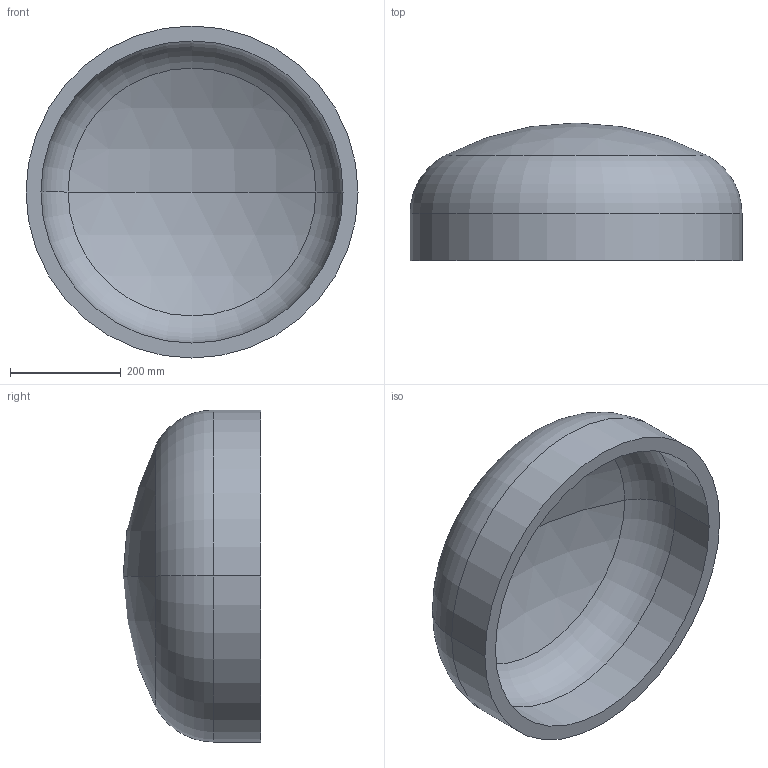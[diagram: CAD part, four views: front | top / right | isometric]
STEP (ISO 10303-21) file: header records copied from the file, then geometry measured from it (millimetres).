
FILE_DESCRIPTION (( 'STEP AP203' ), '1' );
FILE_NAME ('DIN 28013 Korbbogenform_-_Boden DIN 28013 - 600 x 85 - I - s=27.step', '2016-07-01T07:59:01', ( '' ), ( '' ), 'SwSTEP 2.0', 'SolidWorks 2013', '' );
FILE_SCHEMA (( 'CONFIG_CONTROL_DESIGN' ));
Length unit declared in the file: millimetre
Products named in the file (1): DIN 28013 Korbbogenform_-_Boden DIN 28013 - 600 x 85 - I - s=27
Bounding box: 600 x 248.8 x 600 mm (x, y, z)
Volume: 14099134.1 mm3; surface area: 1094510.5 mm2
Topology: 1 solids, 1 shells, 13 faces, 24 edges, 14 vertices
Faces by surface type: torus 4, cylinder 4, sphere 4, plane 1
Entity records: 407 total; most frequent: DIRECTION 72, CARTESIAN_POINT 52, ORIENTED_EDGE 48, AXIS2_PLACEMENT_3D 34, EDGE_CURVE 24, CIRCLE 20, VERTEX_POINT 14, EDGE_LOOP 14
